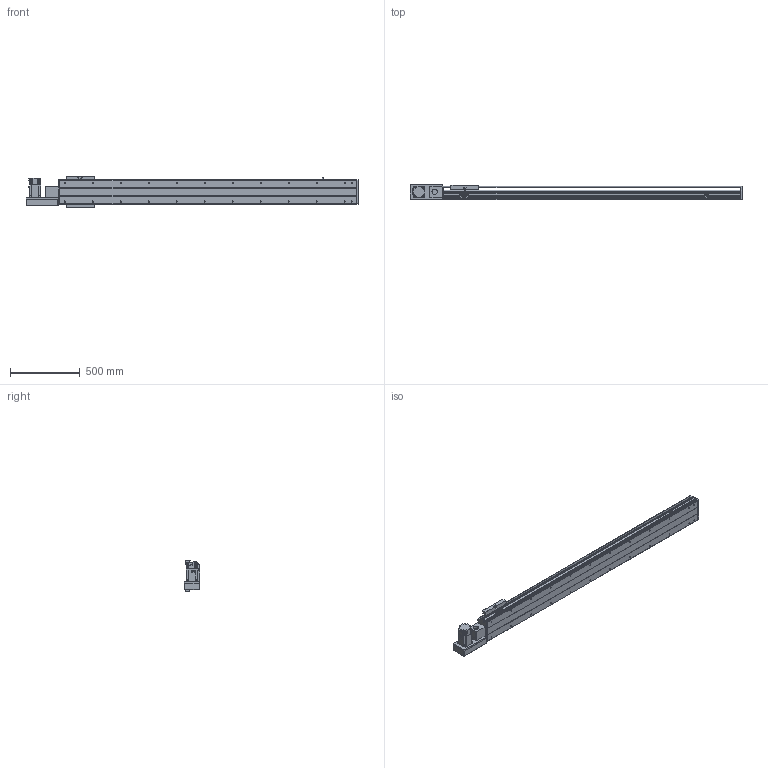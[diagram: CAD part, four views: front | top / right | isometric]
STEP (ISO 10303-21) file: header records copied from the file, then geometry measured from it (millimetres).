
FILE_DESCRIPTION(/* description */ ('STEP AP214'),/* implementation_level */ '2;1');
FILE_NAME(/* name */ 'PBS200-P40-S1750-L-T75-C1-N(0)',/* time_stamp */ '2022-06-11T07:49:37+02:00',/* author */ ('License CC BY-ND 4.0'),/* organization */ ('CADENAS'),/* preprocessor_version */ 'ST-DEVELOPER v18.102',/* originating_system */ 'PARTsolutions',/* authorisation */ ' ');
FILE_SCHEMA (('MODEL_BASED_INTEGRATED_MANUFACTURING_SCHEMA','AUTOMOTIVE_DESIGN {1 0 10303 214 3 1 1}'));
Length unit declared in the file: millimetre
Products named in the file (7): PBS200-P40-S1750-L-T75-C1-N(0); PBS200_sensor; PBS200_plant; PBS200_sliser; T75-p1; PBS200T-L_motors; PBS200-S1750()_body
Assembly tree (8 placements, depth 2):
  PBS200-P40-S1750-L-T75-C1-N(0)
    PBS200_sensor  x3
    PBS200_plant
    PBS200_sliser
    T75-p1
    PBS200T-L_motors
    PBS200-S1750()_body
Bounding box: 2372 x 109 x 221 mm (x, y, z)
Volume: 15920200.2 mm3; surface area: 2558183.1 mm2
Topology: 8 solids, 8 shells, 944 faces, 2414 edges, 1572 vertices
Faces by surface type: plane 582, cylinder 306, cone 56
Full cylindrical faces by diameter (mm): 2.459 x6, 3.242 x4, 4.5 x6, 4.917 x4, 5 x6, 6 x7, 6.6 x8, 6.647 x28, 8 x6, 10 x4, 12 x8, 38 x2, 40 x1, 70 x1
Entity records: 25061 total; most frequent: DIRECTION 4423, CARTESIAN_POINT 4264, ORIENTED_EDGE 4030, EDGE_CURVE 2015, AXIS2_PLACEMENT_3D 1555, VERTEX_POINT 1396, LINE 1313, VECTOR 1313
